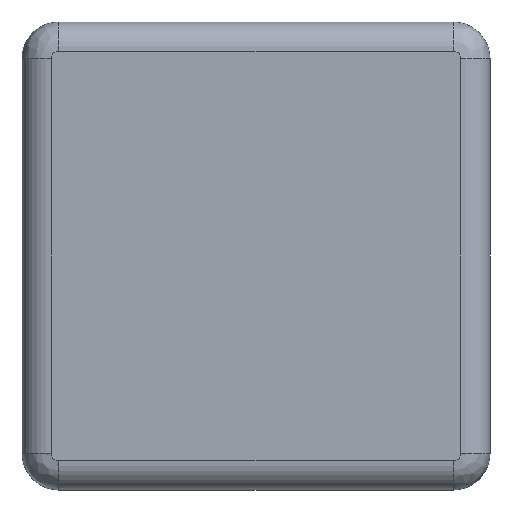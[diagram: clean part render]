
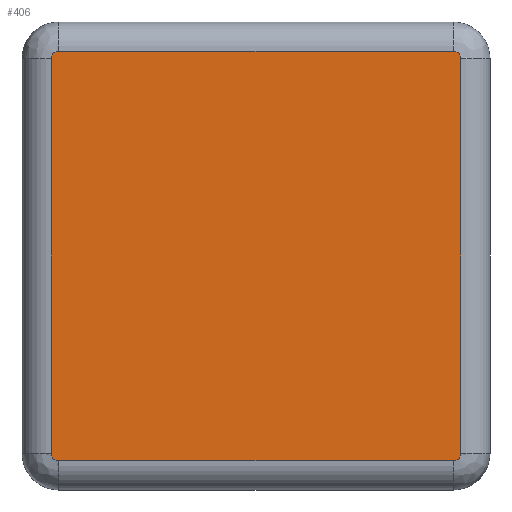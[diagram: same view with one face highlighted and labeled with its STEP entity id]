
A CAD part, front view. The second image highlights one B-rep face of the part: STEP entity #406.
In plain terms, the highlighted planar face has unit normal (0, -1, 0).
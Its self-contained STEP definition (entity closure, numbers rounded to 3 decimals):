
#24=PLANE('',#472);
#41=LINE('',#706,#65);
#42=LINE('',#710,#66);
#43=LINE('',#714,#67);
#44=LINE('',#717,#68);
#65=VECTOR('',#569,1000.);
#66=VECTOR('',#572,1000.);
#67=VECTOR('',#575,1000.);
#68=VECTOR('',#578,1000.);
#100=FACE_OUTER_BOUND('',#130,.T.);
#130=EDGE_LOOP('',(#319,#320,#321,#322,#323,#324,#325,#326));
#171=CIRCLE('',#473,0.5);
#172=CIRCLE('',#474,0.5);
#173=CIRCLE('',#475,0.5);
#174=CIRCLE('',#476,0.5);
#207=VERTEX_POINT('',#702);
#208=VERTEX_POINT('',#703);
#209=VERTEX_POINT('',#705);
#210=VERTEX_POINT('',#707);
#211=VERTEX_POINT('',#709);
#212=VERTEX_POINT('',#711);
#213=VERTEX_POINT('',#713);
#214=VERTEX_POINT('',#715);
#249=EDGE_CURVE('',#207,#208,#171,.T.);
#250=EDGE_CURVE('',#207,#209,#41,.T.);
#251=EDGE_CURVE('',#210,#209,#172,.T.);
#252=EDGE_CURVE('',#210,#211,#42,.T.);
#253=EDGE_CURVE('',#212,#211,#173,.T.);
#254=EDGE_CURVE('',#212,#213,#43,.T.);
#255=EDGE_CURVE('',#214,#213,#174,.T.);
#256=EDGE_CURVE('',#214,#208,#44,.T.);
#319=ORIENTED_EDGE('',*,*,#249,.F.);
#320=ORIENTED_EDGE('',*,*,#250,.T.);
#321=ORIENTED_EDGE('',*,*,#251,.F.);
#322=ORIENTED_EDGE('',*,*,#252,.T.);
#323=ORIENTED_EDGE('',*,*,#253,.F.);
#324=ORIENTED_EDGE('',*,*,#254,.T.);
#325=ORIENTED_EDGE('',*,*,#255,.F.);
#326=ORIENTED_EDGE('',*,*,#256,.T.);
#406=ADVANCED_FACE('',(#100),#24,.T.);
#472=AXIS2_PLACEMENT_3D('',#701,#565,#566);
#473=AXIS2_PLACEMENT_3D('',#704,#567,#568);
#474=AXIS2_PLACEMENT_3D('',#708,#570,#571);
#475=AXIS2_PLACEMENT_3D('',#712,#573,#574);
#476=AXIS2_PLACEMENT_3D('',#716,#576,#577);
#565=DIRECTION('center_axis',(0.,-1.,0.));
#566=DIRECTION('ref_axis',(0.,0.,-1.));
#567=DIRECTION('center_axis',(0.,1.,0.));
#568=DIRECTION('ref_axis',(0.,0.,-1.));
#569=DIRECTION('',(-1.,0.,0.));
#570=DIRECTION('center_axis',(0.,1.,0.));
#571=DIRECTION('ref_axis',(0.,0.,-1.));
#572=DIRECTION('',(0.,0.,-1.));
#573=DIRECTION('center_axis',(0.,1.,0.));
#574=DIRECTION('ref_axis',(0.,0.,-1.));
#575=DIRECTION('',(1.,0.,0.));
#576=DIRECTION('center_axis',(0.,1.,0.));
#577=DIRECTION('ref_axis',(0.,0.,-1.));
#578=DIRECTION('',(0.,0.,1.));
#701=CARTESIAN_POINT('Origin',(-16.,0.,-16.));
#702=CARTESIAN_POINT('',(13.5,0.,14.));
#703=CARTESIAN_POINT('',(14.,0.,13.5));
#704=CARTESIAN_POINT('Origin',(13.5,0.,13.5));
#705=CARTESIAN_POINT('',(-13.5,0.,14.));
#706=CARTESIAN_POINT('',(-16.,0.,14.));
#707=CARTESIAN_POINT('',(-14.,0.,13.5));
#708=CARTESIAN_POINT('Origin',(-13.5,0.,13.5));
#709=CARTESIAN_POINT('',(-14.,0.,-13.5));
#710=CARTESIAN_POINT('',(-14.,0.,-16.));
#711=CARTESIAN_POINT('',(-13.5,0.,-14.));
#712=CARTESIAN_POINT('Origin',(-13.5,0.,-13.5));
#713=CARTESIAN_POINT('',(13.5,0.,-14.));
#714=CARTESIAN_POINT('',(16.,0.,-14.));
#715=CARTESIAN_POINT('',(14.,0.,-13.5));
#716=CARTESIAN_POINT('Origin',(13.5,0.,-13.5));
#717=CARTESIAN_POINT('',(14.,0.,16.));
